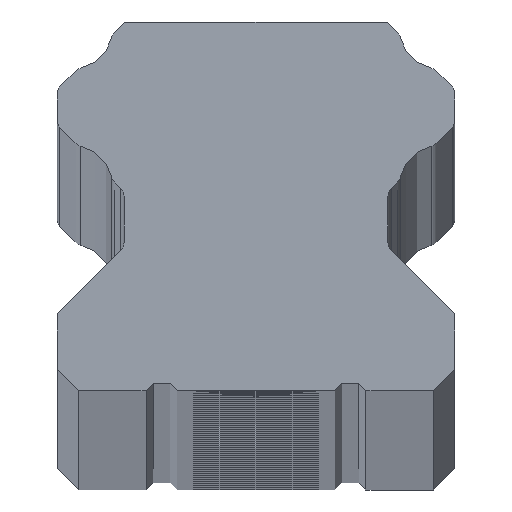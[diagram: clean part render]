
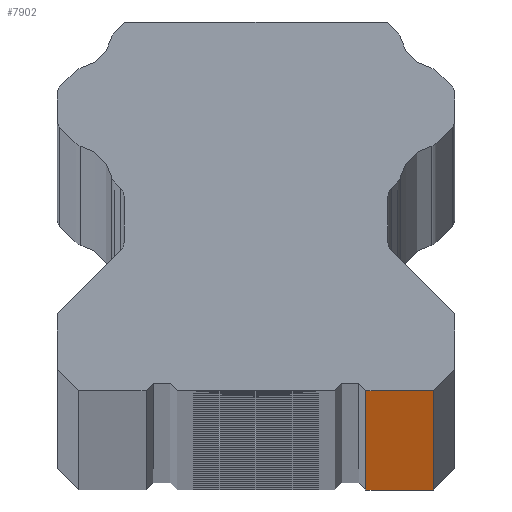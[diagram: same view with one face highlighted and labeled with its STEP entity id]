
A CAD part, top view. The second image highlights one B-rep face of the part: STEP entity #7902.
In plain terms, the highlighted planar face has unit normal (0, -1, 0).
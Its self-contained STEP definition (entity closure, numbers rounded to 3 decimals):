
#25 = EDGE_CURVE ( 'NONE', #8365, #4758, #5768, .T. ) ;
#66 = DIRECTION ( 'NONE',  ( 0., 0., -1. ) ) ;
#375 = EDGE_CURVE ( 'NONE', #2832, #4758, #6520, .T. ) ;
#432 = LINE ( 'NONE', #4885, #5173 ) ;
#554 = AXIS2_PLACEMENT_3D ( 'NONE', #7886, #1935, #8583 ) ;
#617 = VECTOR ( 'NONE', #2157, 1000. ) ;
#1053 = LINE ( 'NONE', #6055, #6580 ) ;
#1248 = PLANE ( 'NONE',  #554 ) ;
#1585 = EDGE_LOOP ( 'NONE', ( #4292, #4002, #7848, #8509 ) ) ;
#1835 = VECTOR ( 'NONE', #66, 1000. ) ;
#1935 = DIRECTION ( 'NONE',  ( 0., 1., 0. ) ) ;
#2157 = DIRECTION ( 'NONE',  ( 1., 0., 0. ) ) ;
#2579 = CARTESIAN_POINT ( 'NONE',  ( 12.837, -12.691, -2000. ) ) ;
#2694 = DIRECTION ( 'NONE',  ( 0., 0., -1. ) ) ;
#2832 = VERTEX_POINT ( 'NONE', #8317 ) ;
#3474 = EDGE_CURVE ( 'NONE', #4750, #2832, #1053, .T. ) ;
#3604 = CARTESIAN_POINT ( 'NONE',  ( 8.087, -12.691, -2000. ) ) ;
#4002 = ORIENTED_EDGE ( 'NONE', *, *, #375, .F. ) ;
#4198 = CARTESIAN_POINT ( 'NONE',  ( 8.087, -12.691, -2000. ) ) ;
#4292 = ORIENTED_EDGE ( 'NONE', *, *, #25, .T. ) ;
#4386 = CARTESIAN_POINT ( 'NONE',  ( 12.837, -12.691, 2000. ) ) ;
#4750 = VERTEX_POINT ( 'NONE', #7809 ) ;
#4758 = VERTEX_POINT ( 'NONE', #2579 ) ;
#4885 = CARTESIAN_POINT ( 'NONE',  ( 8.087, -12.691, 2000. ) ) ;
#5173 = VECTOR ( 'NONE', #2694, 1000. ) ;
#5768 = LINE ( 'NONE', #4198, #617 ) ;
#6055 = CARTESIAN_POINT ( 'NONE',  ( 8.087, -12.691, 2000. ) ) ;
#6520 = LINE ( 'NONE', #4386, #1835 ) ;
#6580 = VECTOR ( 'NONE', #6670, 1000. ) ;
#6670 = DIRECTION ( 'NONE',  ( 1., 0., 0. ) ) ;
#7809 = CARTESIAN_POINT ( 'NONE',  ( 8.087, -12.691, 2000. ) ) ;
#7848 = ORIENTED_EDGE ( 'NONE', *, *, #3474, .F. ) ;
#7886 = CARTESIAN_POINT ( 'NONE',  ( 8.087, -12.691, 2000. ) ) ;
#7902 = ADVANCED_FACE ( 'NONE', ( #8433 ), #1248, .F. ) ;
#8317 = CARTESIAN_POINT ( 'NONE',  ( 12.837, -12.691, 2000. ) ) ;
#8365 = VERTEX_POINT ( 'NONE', #3604 ) ;
#8433 = FACE_OUTER_BOUND ( 'NONE', #1585, .T. ) ;
#8509 = ORIENTED_EDGE ( 'NONE', *, *, #8634, .T. ) ;
#8583 = DIRECTION ( 'NONE',  ( 0., 0., 1. ) ) ;
#8634 = EDGE_CURVE ( 'NONE', #4750, #8365, #432, .T. ) ;
